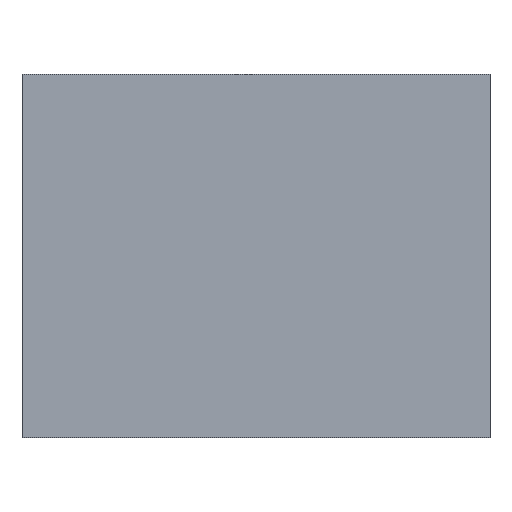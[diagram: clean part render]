
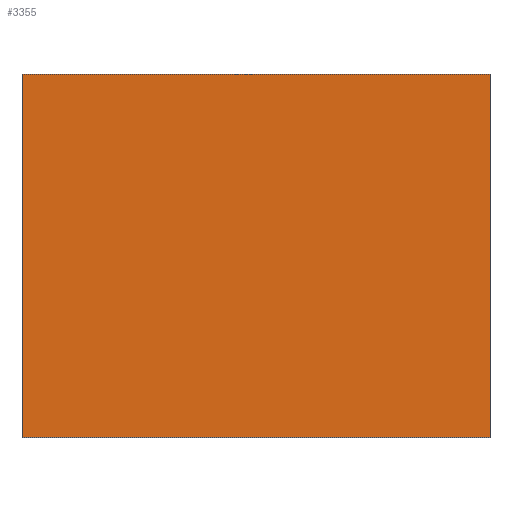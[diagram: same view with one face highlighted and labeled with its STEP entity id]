
A CAD part, top view. The second image highlights one B-rep face of the part: STEP entity #3355.
In plain terms, the highlighted planar face has unit normal (0, 0, 1).
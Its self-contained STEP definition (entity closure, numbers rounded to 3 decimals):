
#3219=CARTESIAN_POINT('Vertex',(111.5,86.5,43.)) ;
#3233=CARTESIAN_POINT('Vertex',(-111.5,86.5,43.)) ;
#3236=CARTESIAN_POINT('Line Origine',(0.,86.5,43.)) ;
#3264=CARTESIAN_POINT('Vertex',(-111.5,-86.5,43.)) ;
#3267=CARTESIAN_POINT('Line Origine',(-111.5,0.,43.)) ;
#3295=CARTESIAN_POINT('Vertex',(111.5,-86.5,43.)) ;
#3298=CARTESIAN_POINT('Line Origine',(0.,-86.5,43.)) ;
#3320=CARTESIAN_POINT('Line Origine',(111.5,0.,43.)) ;
#3344=CARTESIAN_POINT('Axis2P3D Location',(0.,0.,43.)) ;
#3237=DIRECTION('Vector Direction',(1.,0.,0.)) ;
#3268=DIRECTION('Vector Direction',(0.,1.,0.)) ;
#3299=DIRECTION('Vector Direction',(-1.,0.,0.)) ;
#3321=DIRECTION('Vector Direction',(0.,-1.,0.)) ;
#3345=DIRECTION('Axis2P3D Direction',(0.,0.,1.)) ;
#3346=DIRECTION('Axis2P3D XDirection',(1.,0.,0.)) ;
#3347=AXIS2_PLACEMENT_3D('Plane Axis2P3D',#3344,#3345,#3346) ;
#3350=ORIENTED_EDGE('',*,*,#3240,.T.) ;
#3351=ORIENTED_EDGE('',*,*,#3271,.T.) ;
#3352=ORIENTED_EDGE('',*,*,#3302,.T.) ;
#3353=ORIENTED_EDGE('',*,*,#3324,.T.) ;
#3238=VECTOR('Line Direction',#3237,1.) ;
#3269=VECTOR('Line Direction',#3268,1.) ;
#3300=VECTOR('Line Direction',#3299,1.) ;
#3322=VECTOR('Line Direction',#3321,1.) ;
#3355=ADVANCED_FACE('cavity',(#3354),#3348,.T.) ;
#3240=EDGE_CURVE('',#3220,#3234,#3239,.F.) ;
#3271=EDGE_CURVE('',#3234,#3265,#3270,.F.) ;
#3302=EDGE_CURVE('',#3265,#3296,#3301,.F.) ;
#3324=EDGE_CURVE('',#3296,#3220,#3323,.F.) ;
#3349=EDGE_LOOP('',(#3350,#3351,#3352,#3353)) ;
#3354=FACE_OUTER_BOUND('',#3349,.T.) ;
#3239=LINE('Line',#3236,#3238) ;
#3270=LINE('Line',#3267,#3269) ;
#3301=LINE('Line',#3298,#3300) ;
#3323=LINE('Line',#3320,#3322) ;
#3348=PLANE('Plane',#3347) ;
#3220=VERTEX_POINT('',#3219) ;
#3234=VERTEX_POINT('',#3233) ;
#3265=VERTEX_POINT('',#3264) ;
#3296=VERTEX_POINT('',#3295) ;
